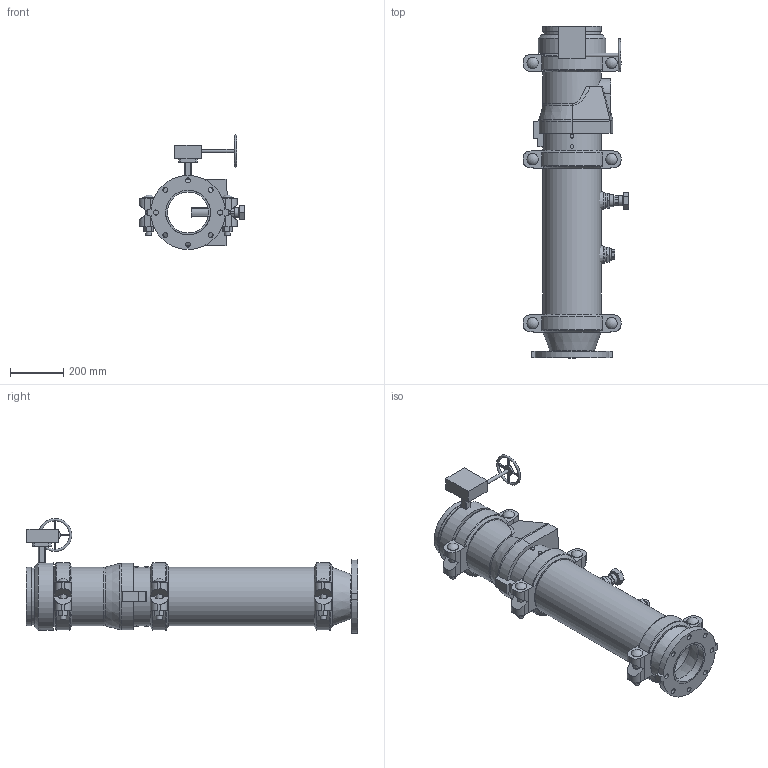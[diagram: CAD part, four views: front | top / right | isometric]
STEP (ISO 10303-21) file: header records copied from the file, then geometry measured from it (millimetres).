
FILE_DESCRIPTION(/* description */ ('VIC DVI PUMP DROP VERT S/380 (OGSxFLG) (S/924-1.25)','CAx-IF Rec.Pracs.---Representation and Presentation of Product Manufacturing Information (PMI)---4.0---2014-10-13'),/* implementation_level */ '2;1');
FILE_NAME(/* name */ 'C:\Users\Public\Documents\Victaulic.Temp\A765\Victaulic_IPS_Vertical DVI_CL 150_Series 380 (OGSxFLG)_924 (1.25)_08.0x06.0 (200x150).stp',/* time_stamp */ '2022-07-25T11:13:34+02:00',/* author */ ('Vjadhav'),/* organization */ ('Victaulic'),/* preprocessor_version */ 'ST-DEVELOPER v18',/* originating_system */ 'Autodesk Inventor 2020',/* authorisation */ '');
FILE_SCHEMA (('AP242_MANAGED_MODEL_BASED_3D_ENGINEERING_MIM_LF { 1 0 10303 442 1 1 4 }'));
Length unit declared in the file: inch
Products named in the file (9): 380_924 (1.25)-08.0x06.0; 741-06.0; 050-08.0x06.0; Pipe-08.0; 177N-08.0; 779-08.0; 923-04.0x0.75; 924-04.0x01.25; 761-08.0
Assembly tree (10 placements, depth 2):
  380_924 (1.25)-08.0x06.0
    741-06.0
    050-08.0x06.0
    177N-08.0  x3
    Pipe-08.0
    779-08.0
    923-04.0x0.75
    924-04.0x01.25
    761-08.0
Bounding box: 398.56 x 1249.43 x 432.78 mm (x, y, z)
Volume: 16986553 mm3; surface area: 2690934.9 mm2
Topology: 10 solids, 12 shells, 579 faces, 1540 edges, 1029 vertices
Faces by surface type: plane 350, cylinder 182, cone 20, torus 19, sphere 6, bspline 2
Full cylindrical faces by diameter (mm): 8.636 x4, 12.446 x1, 12.7 x1, 13.716 x4, 19.05 x8, 21.336 x1, 22.225 x6, 22.86 x1, 26.67 x2, 38.608 x1, 39.125 x1, 42.164 x1, 42.85 x6, 45.974 x4, 48.514 x1, 55.118 x1, 55.626 x2, 154.051 x1, 163.957 x1, 168.275 x3, 202.717 x4, 206.375 x3, 214.401 x7, 219.075 x19, 254 x1
Entity records: 13893 total; most frequent: CARTESIAN_POINT 2891, DIRECTION 2247, ORIENTED_EDGE 2076, EDGE_CURVE 1038, AXIS2_PLACEMENT_3D 853, VERTEX_POINT 701, LINE 541, VECTOR 541
